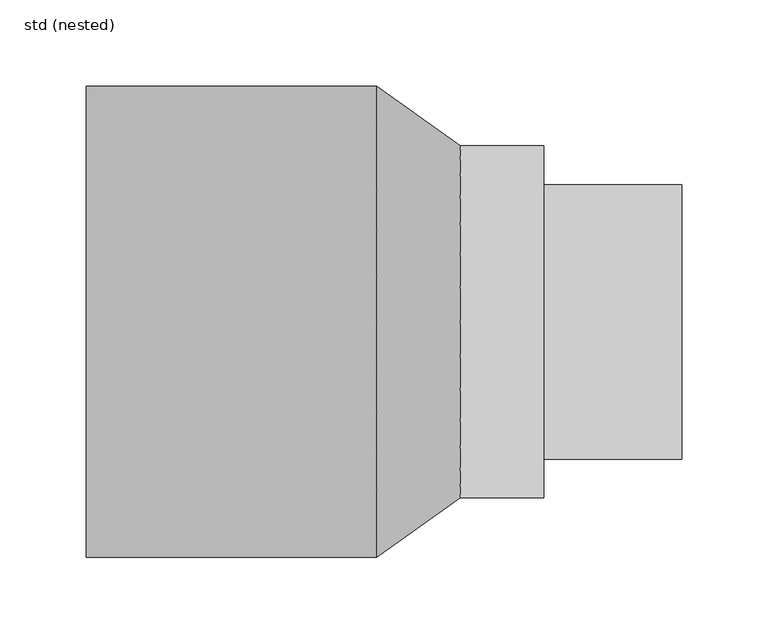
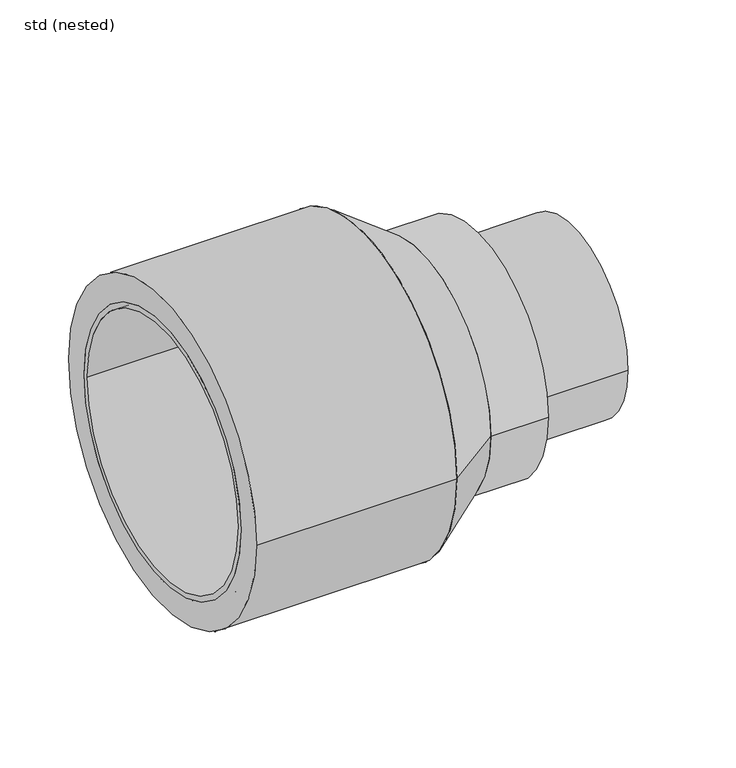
"""IFC4 building model written with IfcOpenShell, lengths in millimetres: pipe fitting geometry, ZZZ_do not use_PIF_ST_WPB_GM-X compound pipe optimiser_ACO : std (nested)."""

from ifc_helpers import new_model, si_unit, point, frame, origin, origin_2d, place, context, project, spatial, polyline, circle_curve, trimmed, segment, composite_curve, outline, extrude, source, transform, mapped, element, save
from ifc_brep_helpers import plane_surface, cylinder_surface, revolved_surface, advanced_brep


def std_nested_3a0079e1(model_context):
    return source(origin(), model_context, "Body", "SolidModel", [
        advanced_brep(
        [(-104.4, -123.7, 0.0), (-104.4, 123.7, 0.0), (-44.0, 123.7, 0.0), (-44.0, -123.7, 0.0), (-120.0, 114.0, 0.0), (-120.0, -114.0, 0.0), (-120.0, -109.5, 0.0), (-120.0, 109.5, 0.0), (0.0, 114.0, 0.0), (0.0, -114.0, 0.0), (0.0, 109.5, 0.0), (0.0, -109.5, 0.0), (-104.4, 114.0, 0.0), (-104.4, -114.0, 0.0), (-44.0, -114.0, 0.0), (-44.0, 114.0, 0.0)],
        [
            (0, 1, circle_curve(frame((-104.4, 0.0, 0.0), z_axis=(1.0, 0.0, 0.0), x_axis=(0.0, -1.0, 0.0)), 123.7)),
            (1, 2),
            (2, 3, circle_curve(frame((-44.0, 0.0, 0.0), z_axis=(-1.0, 0.0, 0.0), x_axis=(0.0, -1.0, 0.0)), 123.7)),
            (3, 0),
            (1, 0, circle_curve(frame((-104.4, 0.0, 0.0), z_axis=(1.0, 0.0, 0.0), x_axis=(0.0, -1.0, 0.0)), 123.7)),
            (3, 2, circle_curve(frame((-44.0, 0.0, 0.0), z_axis=(-1.0, 0.0, 0.0), x_axis=(0.0, -1.0, 0.0)), 123.7)),
            (4, 5, circle_curve(frame((-120.0, 0.0, 0.0), z_axis=(-1.0, 0.0, 0.0), x_axis=(0.0, -1.0, 0.0)), 114.0)),
            (5, 4, circle_curve(frame((-120.0, 0.0, 0.0), z_axis=(-1.0, 0.0, 0.0), x_axis=(0.0, -1.0, 0.0)), 114.0)),
            (6, 7, circle_curve(frame((-120.0, 0.0, 0.0), z_axis=(1.0, 0.0, 0.0), x_axis=(0.0, -1.0, 0.0)), 109.5)),
            (7, 6, circle_curve(frame((-120.0, 0.0, 0.0), z_axis=(1.0, 0.0, 0.0), x_axis=(0.0, -1.0, 0.0)), 109.5)),
            (8, 9, circle_curve(frame((0.0, 0.0, 0.0), z_axis=(1.0, 0.0, 0.0), x_axis=(0.0, -1.0, 0.0)), 114.0)),
            (9, 8, circle_curve(frame((0.0, 0.0, 0.0), z_axis=(1.0, 0.0, 0.0), x_axis=(0.0, -1.0, 0.0)), 114.0)),
            (10, 11, circle_curve(frame((0.0, 0.0, 0.0), z_axis=(-1.0, 0.0, 0.0), x_axis=(0.0, -1.0, 0.0)), 109.5)),
            (11, 10, circle_curve(frame((0.0, 0.0, 0.0), z_axis=(-1.0, 0.0, 0.0), x_axis=(0.0, -1.0, 0.0)), 109.5)),
            (4, 12),
            (12, 13, circle_curve(frame((-104.4, 0.0, 0.0), z_axis=(-1.0, 0.0, 0.0), x_axis=(0.0, -1.0, 0.0)), 114.0)),
            (13, 5),
            (9, 14),
            (14, 15, circle_curve(frame((-44.0, 0.0, 0.0), z_axis=(1.0, 0.0, 0.0), x_axis=(0.0, -1.0, 0.0)), 114.0)),
            (15, 8),
            (13, 12, circle_curve(frame((-104.4, 0.0, 0.0), z_axis=(-1.0, 0.0, 0.0), x_axis=(0.0, -1.0, 0.0)), 114.0)),
            (15, 14, circle_curve(frame((-44.0, 0.0, 0.0), z_axis=(1.0, 0.0, 0.0), x_axis=(0.0, -1.0, 0.0)), 114.0)),
            (6, 11),
            (10, 7),
        ],
        [
            cylinder_surface(frame((-44.0, 0.0, 0.0), z_axis=(-1.0, 0.0, 0.0), x_axis=(0.0, -1.0, 0.0)), 123.7),
            plane_surface(frame((-120.0, -114.0, 0.0), z_axis=(-1.0, 0.0, 0.0), x_axis=(0.0, 0.0, 1.0))),
            plane_surface(frame((0.0, -114.0, 0.0), z_axis=(1.0, 0.0, 0.0), x_axis=(0.0, 0.0, -1.0))),
            cylinder_surface(frame((0.0, 0.0, 0.0), z_axis=(-1.0, 0.0, 0.0), x_axis=(0.0, -1.0, 0.0)), 114.0),
            revolved_surface(polyline([(-120.0, -109.5, 0.0), (0.0, -109.5, 0.0)]), (0.0, 0.0, 0.0), (-1.0, 0.0, 0.0)),
            plane_surface(frame((-104.4, -123.7, 0.0), z_axis=(-1.0, 0.0, 0.0), x_axis=(0.0, 0.0, 1.0))),
            plane_surface(frame((-44.0, -123.7, 0.0), z_axis=(1.0, 0.0, 0.0), x_axis=(0.0, 0.0, -1.0))),
        ],
        [
            (0, [[1, 2, 3, 4]]),
            (0, [[5, -4, 6, -2]]),
            (1, [[7, 8], [9, 10]]),
            (2, [[11, 12], [13, 14]]),
            (3, [[-7, 15, 16, 17]]),
            (3, [[-12, 18, 19, 20]]),
            (3, [[-8, -17, 21, -15]]),
            (3, [[-11, -20, 22, -18]]),
            (4, [[23, -13, 24, -9]]),
            (4, [[-23, -10, -24, -14]]),
            (5, [[-1, -5], [-16, -21]]),
            (6, [[-6, -3], [-19, -22]]),
        ],
    ),
        advanced_brep(
        [(96.6666667, -102.0, 0.0), (96.6666667, 102.0, 0.0), (48.3333333, -136.5, 0.0), (48.3333333, 136.5, 0.0)],
        [
            (0, 1, circle_curve(frame((96.6666667, 0.0, 0.0), z_axis=(1.0, 0.0, 0.0), x_axis=(0.0, -1.0, 0.0)), 102.0)),
            (1, 0, circle_curve(frame((96.6666667, 0.0, 0.0), z_axis=(1.0, 0.0, 0.0), x_axis=(0.0, 1.0, 0.0)), 102.0)),
            (2, 3, circle_curve(frame((48.3333333, 0.0, 0.0), z_axis=(-1.0, 0.0, 0.0), x_axis=(0.0, 1.0, 0.0)), 136.5)),
            (3, 2, circle_curve(frame((48.3333333, 0.0, 0.0), z_axis=(-1.0, 0.0, 0.0), x_axis=(0.0, -1.0, 0.0)), 136.5)),
            (3, 1),
            (0, 2),
        ],
        [
            plane_surface(frame((96.6666667, 0.0, 0.0), z_axis=(1.0, 0.0, 0.0), x_axis=(0.0, 0.0, -1.0))),
            plane_surface(frame((48.3333333, 0.0, 0.0), z_axis=(-1.0, 0.0, 0.0), x_axis=(0.0, 0.0, -1.0))),
            revolved_surface(polyline([(96.66666670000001, -101.9999999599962, 0.0), (48.33333329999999, -136.5, 0.0)]), (239.5652174, 0.0, 0.0), (-1.0, 0.0, 0.0)),
            revolved_surface(polyline([(96.66666670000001, 101.9999999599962, 0.0), (48.33333329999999, 136.5, 0.0)]), (239.5652174, 0.0, 0.0), (-1.0, 0.0, 0.0)),
        ],
        [
            (0, [[1, 2]]),
            (1, [[3, 4]]),
            (2, [[-4, 5, -1, 6]]),
            (3, [[-3, -6, -2, -5]]),
        ],
    ),
        advanced_brep(
        [(-120.0, -136.5, 0.0), (-120.0, 136.5, 0.0), (-120.0, 114.0, 0.0), (-120.0, -114.0, 0.0), (48.3333333, -136.5, 0.0), (48.3333333, 136.5, 0.0), (0.0, -114.0, 0.0), (0.0, 114.0, 0.0)],
        [
            (0, 1, circle_curve(frame((-120.0, 0.0, 0.0), z_axis=(-1.0, 0.0, 0.0), x_axis=(0.0, 1.0, 0.0)), 136.5)),
            (1, 0, circle_curve(frame((-120.0, 0.0, 0.0), z_axis=(-1.0, 0.0, 0.0), x_axis=(0.0, 1.0, 0.0)), 136.5)),
            (2, 3, circle_curve(frame((-120.0, 0.0, 0.0), z_axis=(1.0, 0.0, 0.0), x_axis=(0.0, 1.0, 0.0)), 114.0)),
            (3, 2, circle_curve(frame((-120.0, 0.0, 0.0), z_axis=(1.0, 0.0, 0.0), x_axis=(0.0, 1.0, 0.0)), 114.0)),
            (4, 5, circle_curve(frame((48.3333333, 0.0, 0.0), z_axis=(1.0, 0.0, 0.0), x_axis=(0.0, 1.0, 0.0)), 136.5)),
            (5, 4, circle_curve(frame((48.3333333, 0.0, 0.0), z_axis=(1.0, 0.0, 0.0), x_axis=(0.0, 1.0, 0.0)), 136.5)),
            (0, 4),
            (5, 1),
            (6, 7, circle_curve(frame((0.0, 0.0, 0.0), z_axis=(-1.0, 0.0, 0.0), x_axis=(0.0, 1.0, 0.0)), 114.0)),
            (7, 6, circle_curve(frame((0.0, 0.0, 0.0), z_axis=(-1.0, 0.0, 0.0), x_axis=(0.0, 1.0, 0.0)), 114.0)),
            (6, 3),
            (2, 7),
        ],
        [
            plane_surface(frame((-120.0, 136.5, 0.0), z_axis=(-1.0, 0.0, 0.0), x_axis=(0.0, 0.0, -1.0))),
            plane_surface(frame((48.3333333, 136.5, 0.0), z_axis=(1.0, 0.0, 0.0), x_axis=(0.0, 0.0, 1.0))),
            cylinder_surface(frame((48.3333333, 0.0, 0.0), z_axis=(-1.0, 0.0, 0.0), x_axis=(0.0, 1.0, 0.0)), 136.5),
            plane_surface(frame((0.0, 114.0, 0.0), z_axis=(-1.0, 0.0, 0.0), x_axis=(0.0, 0.0, 1.0))),
            revolved_surface(polyline([(-120.0, 114.0, 0.0), (0.0, 114.0, 0.0)]), (0.0, 0.0, 0.0), (-1.0, 0.0, 0.0)),
        ],
        [
            (0, [[1, 2], [3, 4]]),
            (1, [[5, 6]]),
            (2, [[-1, 7, -6, 8]]),
            (2, [[-2, -8, -5, -7]]),
            (3, [[9, 10]]),
            (4, [[-9, 11, -3, 12]]),
            (4, [[-10, -12, -4, -11]]),
        ],
    ),
        extrude(outline(composite_curve([segment(trimmed(circle_curve(origin_2d(), 102.0), [point((102.0, 0.0))], [point((-102.0, 0.0))], False, "CARTESIAN"), True, "CONTINUOUS"), segment(trimmed(circle_curve(origin_2d(), 102.0), [point((-102.0, 0.0))], [point((102.0, 0.0))], False, "CARTESIAN"), True, "CONTINUOUS")], self_intersect=False)), frame((96.6666667, 0.0, 0.0), z_axis=(1.0, 0.0, 0.0), x_axis=(0.0, 1.0, 0.0)), (0.0, 0.0, 1.0), 48.3333333),
        extrude(outline(composite_curve([segment(trimmed(circle_curve(origin_2d(), 79.5), [point((79.5, 0.0))], [point((-79.5, 0.0))], False, "CARTESIAN"), True, "CONTINUOUS"), segment(trimmed(circle_curve(origin_2d(), 79.5), [point((-79.5, 0.0))], [point((79.5, 0.0))], False, "CARTESIAN"), True, "CONTINUOUS")], self_intersect=False)), frame((145.0, 0.0, 0.0), z_axis=(1.0, 0.0, 0.0), x_axis=(0.0, 1.0, 0.0)), (0.0, 0.0, 1.0), 80.0),
    ])


if __name__ == "__main__":
    model = new_model("IFC4")
    model_context = context("Model", 3, world=origin())
    ifc_project = project(units=[si_unit("LENGTHUNIT", "METRE", prefix="MILLI")], contexts=[model_context])
    site = spatial("IfcSite", under=ifc_project)
    building = spatial("IfcBuilding", under=site)
    placement = place(None, origin())
    std_nested_shape = std_nested_3a0079e1(model_context)
    element("IfcPipeFitting", 1, ObjectType="ZZZ_do not use_PIF_ST_WPB_GM-X compound pipe optimiser_ACO : std (nested)", at=placement, inside=building, context=model_context, shape_type="MappedRepresentation", body=[
        mapped(std_nested_shape, transform((0.0, 0.0, 0.0), x_axis=(1.0, 0.0, 0.0), y_axis=(0.0, 1.0, 0.0), z_axis=(0.0, 0.0, 1.0))),
    ])
    save(model, "model.ifc")
